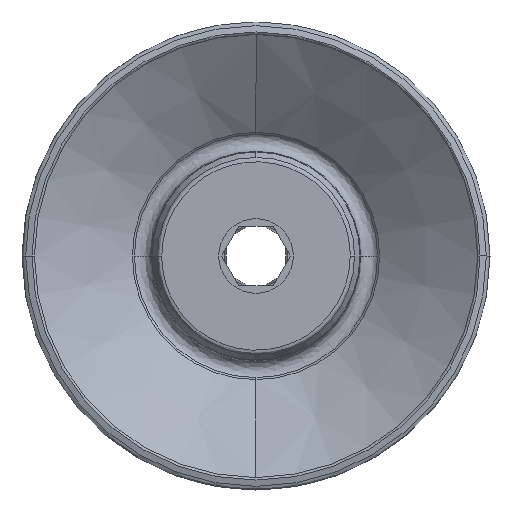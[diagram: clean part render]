
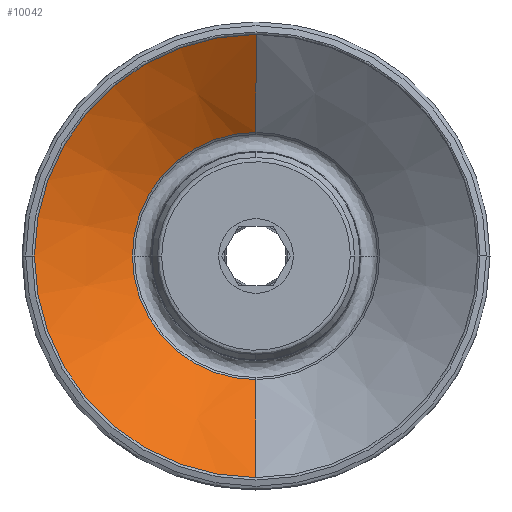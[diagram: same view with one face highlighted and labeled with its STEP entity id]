
A CAD part, front view. The second image highlights one B-rep face of the part: STEP entity #10042.
In plain terms, the highlighted conical face has half-angle 55.336 degrees and reference radius 22.25 mm.
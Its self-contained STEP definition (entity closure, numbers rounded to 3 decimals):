
#56 = CARTESIAN_POINT ( 'NONE',  ( 0., -35.569, 22.25 ) ) ;
#123 = EDGE_CURVE ( 'NONE', #2244, #9593, #7238, .T. ) ;
#1070 = VERTEX_POINT ( 'NONE', #56 ) ;
#1836 = FACE_OUTER_BOUND ( 'NONE', #14245, .T. ) ;
#1902 = CARTESIAN_POINT ( 'NONE',  ( 0., -28.768, 12.415 ) ) ;
#2244 = VERTEX_POINT ( 'NONE', #11165 ) ;
#2787 = EDGE_CURVE ( 'NONE', #9593, #8169, #11051, .T. ) ;
#2915 = CARTESIAN_POINT ( 'NONE',  ( 0., -35.569, 0. ) ) ;
#3270 = DIRECTION ( 'NONE',  ( 0., -0.569, -0.822 ) ) ;
#3468 = CARTESIAN_POINT ( 'NONE',  ( 0., -28.768, 0. ) ) ;
#3537 = VECTOR ( 'NONE', #3270, 1000. ) ;
#4022 = DIRECTION ( 'NONE',  ( -1., 0., 0. ) ) ;
#4273 = EDGE_CURVE ( 'NONE', #5309, #1070, #13261, .T. ) ;
#4867 = DIRECTION ( 'NONE',  ( -1., 0., 0. ) ) ;
#4992 = DIRECTION ( 'NONE',  ( 0., 0., -1. ) ) ;
#5309 = VERTEX_POINT ( 'NONE', #16515 ) ;
#6000 = AXIS2_PLACEMENT_3D ( 'NONE', #2915, #9477, #15057 ) ;
#6277 = CIRCLE ( 'NONE', #16047, 22.25 ) ;
#6286 = EDGE_CURVE ( 'NONE', #8169, #5309, #6277, .T. ) ;
#6613 = DIRECTION ( 'NONE',  ( -1., 0., 0. ) ) ;
#7151 = CARTESIAN_POINT ( 'NONE',  ( 0., -28.768, 0. ) ) ;
#7193 = CARTESIAN_POINT ( 'NONE',  ( 0., -35.569, 0. ) ) ;
#7238 = CIRCLE ( 'NONE', #9465, 12.415 ) ;
#7358 = ORIENTED_EDGE ( 'NONE', *, *, #17211, .T. ) ;
#7386 = CARTESIAN_POINT ( 'NONE',  ( 0., -35.569, -22.25 ) ) ;
#7454 = ORIENTED_EDGE ( 'NONE', *, *, #4273, .F. ) ;
#7509 = EDGE_CURVE ( 'NONE', #17096, #2244, #13774, .T. ) ;
#8169 = VERTEX_POINT ( 'NONE', #13052 ) ;
#8243 = ORIENTED_EDGE ( 'NONE', *, *, #7509, .F. ) ;
#8490 = CARTESIAN_POINT ( 'NONE',  ( 0., -35.569, 22.25 ) ) ;
#9055 = CARTESIAN_POINT ( 'NONE',  ( 0., -35.569, 0. ) ) ;
#9233 = DIRECTION ( 'NONE',  ( 0., 1., 0. ) ) ;
#9465 = AXIS2_PLACEMENT_3D ( 'NONE', #3468, #11489, #4867 ) ;
#9477 = DIRECTION ( 'NONE',  ( 0., 1., 0. ) ) ;
#9593 = VERTEX_POINT ( 'NONE', #12635 ) ;
#9879 = AXIS2_PLACEMENT_3D ( 'NONE', #7151, #17294, #4022 ) ;
#10042 = ADVANCED_FACE ( 'NONE', ( #1836 ), #12046, .F. ) ;
#11051 = LINE ( 'NONE', #7386, #3537 ) ;
#11165 = CARTESIAN_POINT ( 'NONE',  ( -12.415, -28.768, 0. ) ) ;
#11489 = DIRECTION ( 'NONE',  ( 0., -1., 0. ) ) ;
#12046 = CONICAL_SURFACE ( 'NONE', #15393, 22.25, 0.966 ) ;
#12074 = ORIENTED_EDGE ( 'NONE', *, *, #123, .F. ) ;
#12635 = CARTESIAN_POINT ( 'NONE',  ( 0., -28.768, -12.415 ) ) ;
#13025 = DIRECTION ( 'NONE',  ( 0., -1., 0. ) ) ;
#13052 = CARTESIAN_POINT ( 'NONE',  ( 0., -35.569, -22.25 ) ) ;
#13239 = ORIENTED_EDGE ( 'NONE', *, *, #6286, .F. ) ;
#13261 = CIRCLE ( 'NONE', #6000, 22.25 ) ;
#13513 = VECTOR ( 'NONE', #16510, 1000. ) ;
#13774 = CIRCLE ( 'NONE', #9879, 12.415 ) ;
#13795 = LINE ( 'NONE', #8490, #13513 ) ;
#14245 = EDGE_LOOP ( 'NONE', ( #8243, #7358, #7454, #13239, #15477, #12074 ) ) ;
#15057 = DIRECTION ( 'NONE',  ( -1., 0., 0. ) ) ;
#15393 = AXIS2_PLACEMENT_3D ( 'NONE', #7193, #13025, #4992 ) ;
#15477 = ORIENTED_EDGE ( 'NONE', *, *, #2787, .F. ) ;
#16047 = AXIS2_PLACEMENT_3D ( 'NONE', #9055, #9233, #6613 ) ;
#16510 = DIRECTION ( 'NONE',  ( 0., -0.569, 0.822 ) ) ;
#16515 = CARTESIAN_POINT ( 'NONE',  ( -22.25, -35.569, 0. ) ) ;
#17096 = VERTEX_POINT ( 'NONE', #1902 ) ;
#17211 = EDGE_CURVE ( 'NONE', #17096, #1070, #13795, .T. ) ;
#17294 = DIRECTION ( 'NONE',  ( 0., -1., 0. ) ) ;
